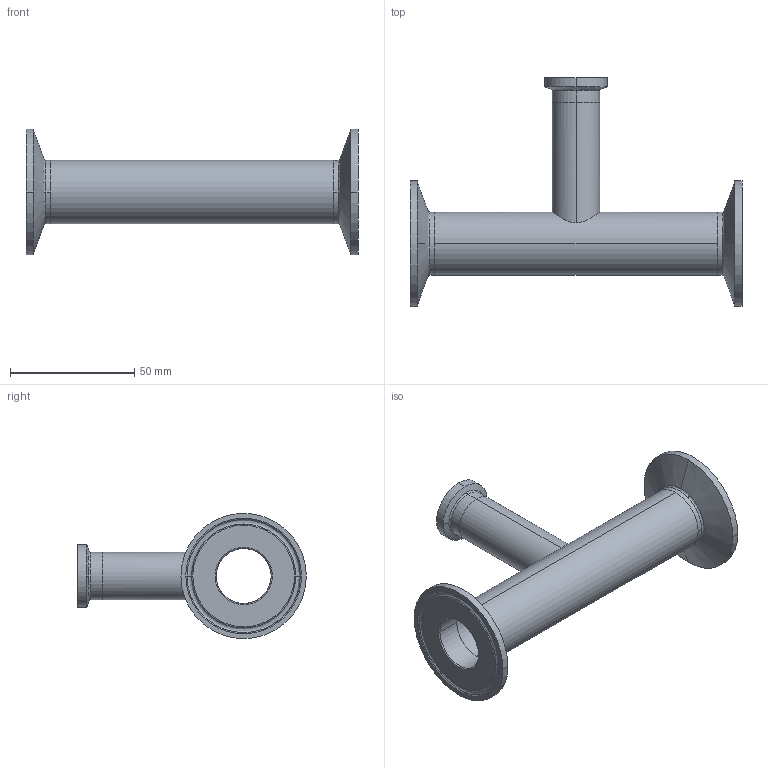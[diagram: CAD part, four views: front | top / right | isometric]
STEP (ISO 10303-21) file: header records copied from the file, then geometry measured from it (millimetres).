
FILE_DESCRIPTION (( 'STEP AP214' ), '1' );
FILE_NAME ('TEG7R6L1.0x.75-...STEP', '2016-05-24T05:31:25', ( 'eran' ), ( '' ), 'SwSTEP 2.0', 'SolidWorks 2016', '' );
FILE_SCHEMA (( 'AUTOMOTIVE_DESIGN' ));
Length unit declared in the file: millimetre
Products named in the file (1): TEG7R6L1.0x.75-..
Bounding box: 133.4 x 91.9 x 50.39 mm (x, y, z)
Volume: 35822.8 mm3; surface area: 33062 mm2
Topology: 4 solids, 4 shells, 84 faces, 202 edges, 130 vertices
Faces by surface type: cylinder 28, bspline 28, cone 16, plane 12
Entity records: 3857 total; most frequent: CARTESIAN_POINT 1841, DIRECTION 434, ORIENTED_EDGE 404, EDGE_CURVE 202, AXIS2_PLACEMENT_3D 195, CIRCLE 138, VERTEX_POINT 130, EDGE_LOOP 98
